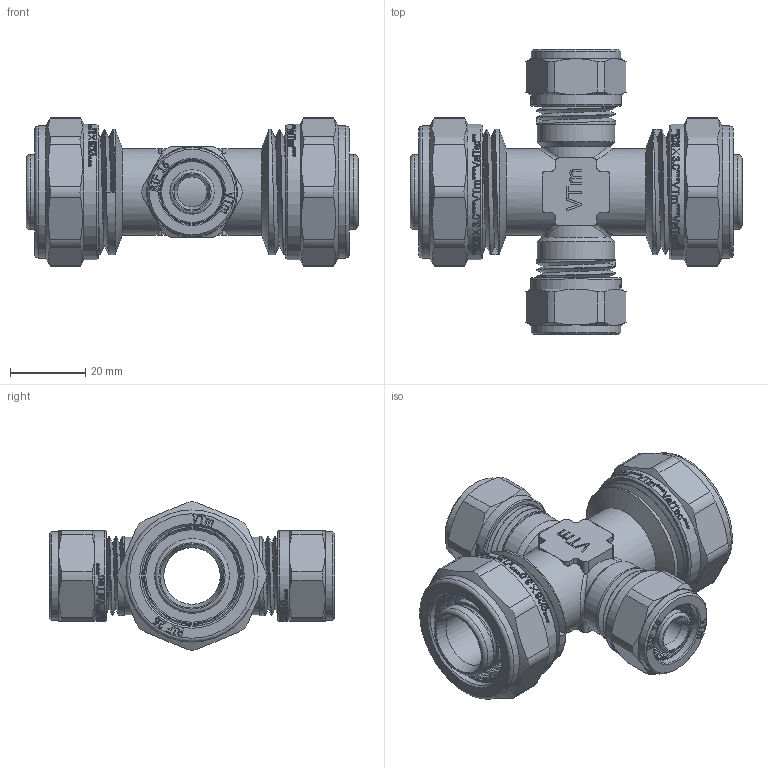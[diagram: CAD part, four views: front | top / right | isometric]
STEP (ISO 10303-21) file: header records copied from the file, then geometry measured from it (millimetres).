
FILE_DESCRIPTION(/* description */ (''),/* implementation_level */ '2;1');
FILE_NAME(/* name */ 'F:\Артём\00000\Работа удаленка\Обжимные фитинги\VTm.341.N.261626.stp',/* time_stamp */ '2020-08-03T15:49:26+03:00',/* author */ ('almis'),/* organization */ (''),/* preprocessor_version */ 'ST-DEVELOPER v18',/* originating_system */ 'Autodesk Inventor 2020',/* authorisation */ '');
FILE_SCHEMA (('AUTOMOTIVE_DESIGN { 1 0 10303 214 3 1 1 }'));
Products named in the file (1): VTm.301.N.001605
Bounding box: 88 x 75.55 x 39.39 mm (x, y, z)
Volume: 50424.3 mm3; surface area: 40481.5 mm2
Topology: 1 solids, 3 shells, 2700 faces, 7596 edges, 5123 vertices
Faces by surface type: bspline 1444, plane 755, cylinder 329, torus 98, cone 74
Full cylindrical faces by diameter (mm): 8 x3, 9.4 x4, 11.75 x8, 15 x1, 16.124 x8, 16.2 x2, 16.724 x10, 17.124 x2, 17.4 x10, 18.724 x2, 19.8 x10, 20.5 x2, 21 x6, 23 x2, 23.624 x2, 24 x2, 24.516 x8, 25.435 x10, 26.2 x2, 26.7 x2, 28.5 x2, 28.7 x4, 30.5 x2, 33.3 x6, 35 x2, 36 x2
Entity records: 112702 total; most frequent: CARTESIAN_POINT 52091, ORIENTED_EDGE 15192, DIRECTION 8173, EDGE_CURVE 7596, VERTEX_POINT 5123, LINE 3219, VECTOR 3219, B_SPLINE_CURVE_WITH_KNOTS 3077
